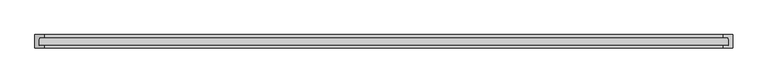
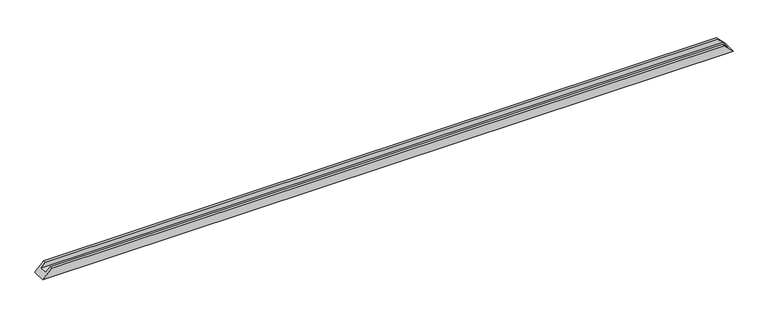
"""IFC4 building model written with IfcOpenShell, lengths in millimetres: proxy geometry, Weiku - Montante - Caixilho duplo 02.2.01.002 : Weiku - Montante - Caixilho duplo 02.2.01.002."""

from ifc_helpers import new_model, si_unit, origin, place, context, project, spatial, faceted_brep, source, transform, mapped, element, save


def generic_models_9ab66f9b(model_context):
    return source(origin(), model_context, "Body", "Brep", [
        faceted_brep([(-1969.0, 15.0, 26.0), (-1943.0, 15.0, 52.0), (1943.0, 15.0, 52.0), (1969.0, 15.0, 26.0), (-1971.2229744, 62.0, 23.7770256), (1971.2229744, 62.0, 23.7770256), (-1943.0, 62.0, 52.0), (1943.0, 62.0, 52.0), (-1943.0, 77.0, 52.0), (1943.0, 77.0, 52.0), (1995.0, 77.0, 0.0), (-1995.0, 77.0, 0.0), (1995.0, 0.0, 0.0), (-1995.0, 0.0, 0.0), (1943.0, 0.0, 52.0), (-1943.0, 0.0, 52.0)], [[[0, 1, 2, 3]], [[4, 0, 3, 5]], [[6, 4, 5, 7]], [[8, 6, 7, 9]], [[10, 11, 8, 9]], [[11, 10, 12, 13]], [[13, 12, 14, 15]], [[1, 15, 14, 2]], [[1, 0, 4, 6, 8, 11, 13, 15]], [[3, 2, 14, 12, 10, 9, 7, 5]]]),
    ])


if __name__ == "__main__":
    model = new_model("IFC4")
    model_context = context("Model", 3, world=origin())
    ifc_project = project(units=[si_unit("LENGTHUNIT", "METRE", prefix="MILLI")], contexts=[model_context])
    site = spatial("IfcSite", under=ifc_project)
    building = spatial("IfcBuilding", under=site)
    placement = place(None, origin())
    generic_models_shape = generic_models_9ab66f9b(model_context)
    element("IfcBuildingElementProxy", 1, Name="Weiku - Montante - Caixilho duplo 02.2.01.002 : Weiku - Montante - Caixilho duplo 02.2.01.002", ObjectType="Weiku - Montante - Caixilho duplo 02.2.01.002 : Weiku - Montante - Caixilho duplo 02.2.01.002", at=placement, inside=building, context=model_context, shape_type="MappedRepresentation", body=[
        mapped(generic_models_shape, transform((0.0, 0.0, 0.0), x_axis=(1.0, 0.0, 0.0), y_axis=(0.0, 1.0, 0.0), z_axis=(0.0, 0.0, 1.0))),
    ])
    save(model, "model.ifc")
